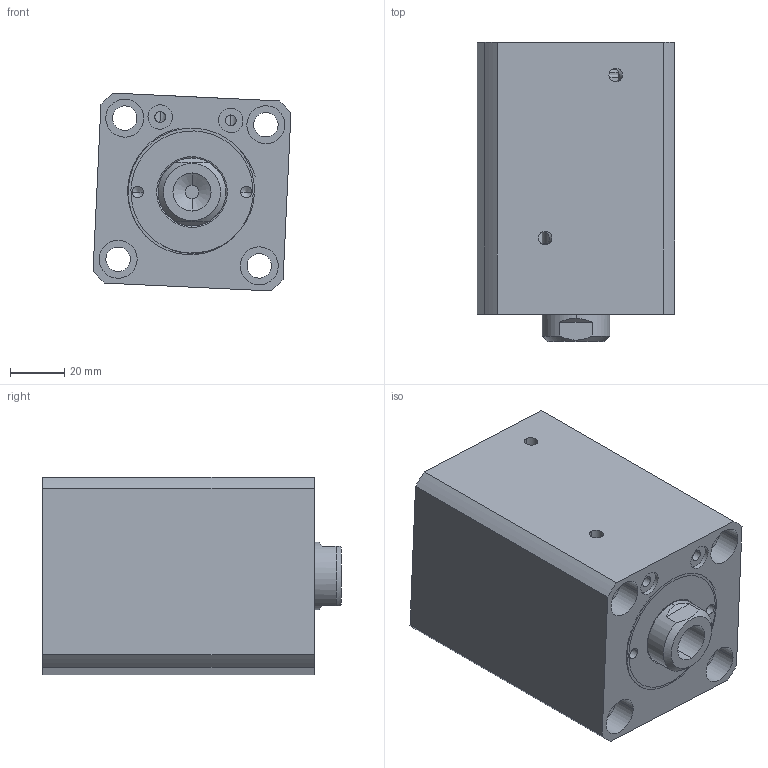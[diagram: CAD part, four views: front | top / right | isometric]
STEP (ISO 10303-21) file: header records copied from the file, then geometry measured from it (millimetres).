
FILE_DESCRIPTION (( 'STEP AP214' ), '1' );
FILE_NAME ('chtb-sdma40x45n_asm.STEP', '2018-06-06T06:14:56', ( 'Windows' ), ( 'Microsoft' ), 'SwSTEP 2.0', 'SolidWorks 2015', '' );
FILE_SCHEMA (( 'AUTOMOTIVE_DESIGN' ));
Length unit declared in the file: millimetre
Products named in the file (4): CHTB-SD40QG; CHTB-SDMA40X45NBT; CHTB-SD40X45NHSG; chtb-sdma40x45n_asm
Assembly tree (3 placements, depth 2):
  chtb-sdma40x45n_asm
    CHTB-SD40X45NHSG
    CHTB-SDMA40X45NBT
    CHTB-SD40QG
Bounding box: 72.81 x 110 x 72.81 mm (x, y, z)
Volume: 412812.1 mm3; surface area: 86672.4 mm2
Topology: 3 solids, 3 shells, 157 faces, 413 edges, 274 vertices
Faces by surface type: cylinder 84, plane 36, torus 14, bspline 14, cone 9
Entity records: 10139 total; most frequent: CARTESIAN_POINT 6157, ORIENTED_EDGE 814, DIRECTION 768, EDGE_CURVE 407, AXIS2_PLACEMENT_3D 326, VERTEX_POINT 274, EDGE_LOOP 193, CIRCLE 177
